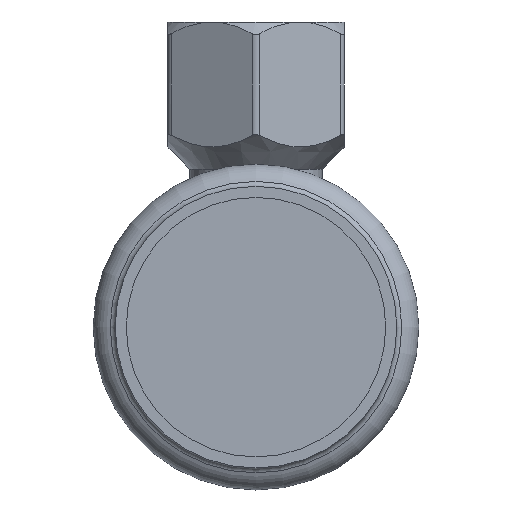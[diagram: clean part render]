
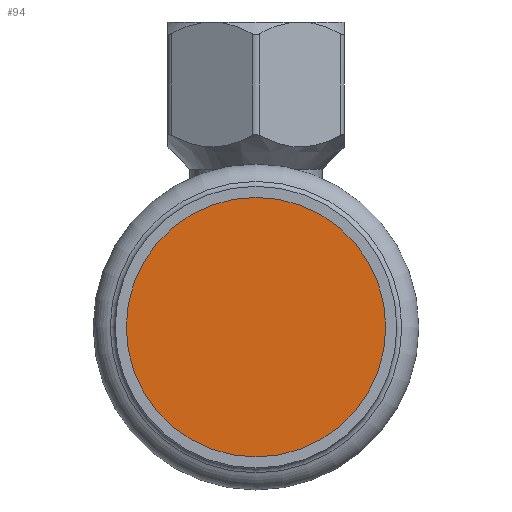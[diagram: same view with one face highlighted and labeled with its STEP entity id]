
A CAD part, front view. The second image highlights one B-rep face of the part: STEP entity #94.
In plain terms, the highlighted planar face has unit normal (0, -1, 0).
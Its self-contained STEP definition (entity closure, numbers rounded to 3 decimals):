
#94=ADVANCED_FACE('',(#429),#431,.T.);
#429=FACE_BOUND('',#430,.T.);
#430=EDGE_LOOP('',(#589));
#431=PLANE('',#432);
#432=AXIS2_PLACEMENT_3D('',#433,#434,#435);
#433=CARTESIAN_POINT('',(0.,-48.743,0.));
#434=DIRECTION('',(0.,-1.,0.));
#435=DIRECTION('',(0.,0.,-1.));
#589=ORIENTED_EDGE('',*,*,#663,.T.);
#663=EDGE_CURVE('',#791,#791,#792,.F.);
#791=VERTEX_POINT('',#2402);
#792=CIRCLE('',#2403,17.65);
#2402=CARTESIAN_POINT('',(0.,-48.743,17.65));
#2403=AXIS2_PLACEMENT_3D('',#2404,#2405,#2406);
#2404=CARTESIAN_POINT('',(0.,-48.743,0.));
#2405=DIRECTION('',(0.,1.,0.));
#2406=DIRECTION('',(0.,0.,1.));
